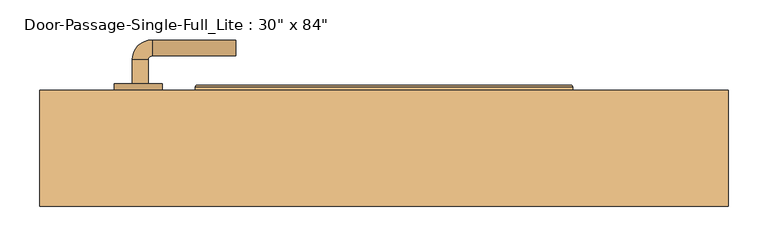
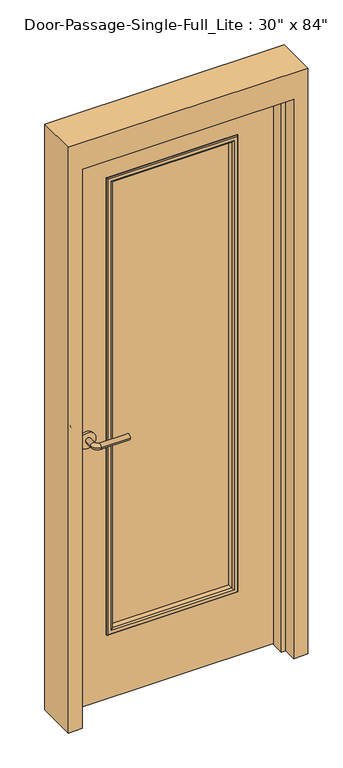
"""IFC4 building model written with IfcOpenShell, lengths in millimetres: door geometry."""

from ifc_helpers import new_model, si_unit, point, frame, frame_2d, origin, place, context, project, spatial, polyline, circle_curve, ellipse_curve, trimmed, segment, composite_curve, outline, extrude, faceted_brep, source, transform, mapped, element, save
from ifc_brep_helpers import plane_surface, cylinder_surface, revolved_surface, advanced_brep


def door_874065d5(model_context):
    return source(origin(), model_context, "Body", "SolidModel", [
        advanced_brep(
        [(-315.990625, 23.75, 1016.0), (-295.990625, 23.75, 1016.0), (-295.990625, -6.25, 1016.0), (-315.990625, -6.25, 1016.0), (-290.990625, -11.25, 1016.0), (-290.990625, -31.25, 1016.0), (-185.990625, -31.25, 1016.0), (-185.990625, -11.25, 1016.0)],
        [
            (0, 1, circle_curve(frame((-305.990625, 23.75, 1016.0), z_axis=(0.0, 1.0, 0.0), x_axis=(1.0, 0.0, 0.0)), 10.0)),
            (1, 0, circle_curve(frame((-305.990625, 23.75, 1016.0), z_axis=(0.0, 1.0, 0.0), x_axis=(1.0, 0.0, 0.0)), 10.0)),
            (1, 2),
            (2, 3, circle_curve(frame((-305.990625, -6.25, 1016.0), z_axis=(0.0, 1.0, 0.0), x_axis=(1.0, 0.0, 0.0)), 10.0)),
            (3, 0),
            (3, 2, circle_curve(frame((-305.990625, -6.25, 1016.0), z_axis=(0.0, 1.0, 0.0), x_axis=(1.0, 0.0, 0.0)), 10.0)),
            (4, 5, circle_curve(frame((-290.990625, -21.25, 1016.0), z_axis=(-1.0, 0.0, 0.0), x_axis=(0.0, 1.0, 0.0)), 10.0)),
            (5, 3, circle_curve(frame((-290.990625, -6.25, 1016.0), z_axis=(0.0, 0.0, -1.0), x_axis=(-1.0, 0.0, 0.0)), 25.0)),
            (2, 4, circle_curve(frame((-290.990625, -6.25, 1016.0), z_axis=(0.0, 0.0, 1.0), x_axis=(-1.0, 0.0, 0.0)), 5.0)),
            (5, 4, circle_curve(frame((-290.990625, -21.25, 1016.0), z_axis=(-1.0, 0.0, 0.0), x_axis=(0.0, 1.0, 0.0)), 10.0)),
            (6, 7, circle_curve(frame((-185.990625, -21.25, 1016.0), z_axis=(1.0, 0.0, 0.0), x_axis=(0.0, 1.0, 0.0)), 10.0)),
            (7, 6, circle_curve(frame((-185.990625, -21.25, 1016.0), z_axis=(1.0, 0.0, 0.0), x_axis=(0.0, 1.0, 0.0)), 10.0)),
            (4, 7),
            (6, 5),
        ],
        [
            plane_surface(frame((-305.990625, 23.75, 1016.0), z_axis=(0.0, 1.0, 0.0), x_axis=(0.0, 0.0, 1.0))),
            cylinder_surface(frame((-305.990625, 23.75, 1016.0), z_axis=(0.0, 1.0, 0.0), x_axis=(1.0, 0.0, 0.0)), 10.0),
            revolved_surface(trimmed(ellipse_curve(frame((-305.990625, -6.25, 1016.0), z_axis=(0.0, -1.0, 0.0), x_axis=(1.0, 0.0, 0.0)), 10.0, 10.0), [point((-315.990625, -6.25, 1016.0))], [point((-295.990625, -6.25, 1016.0))], True, "CARTESIAN"), (-290.990625, -6.25, 1016.0), (0.0, 0.0, -1.0)),
            revolved_surface(trimmed(ellipse_curve(frame((-305.990625, -6.25, 1016.0), z_axis=(0.0, -1.0, 0.0), x_axis=(1.0, 0.0, 0.0)), 10.0, 10.0), [point((-295.990625, -6.25, 1016.0))], [point((-315.990625, -6.25, 1016.0))], True, "CARTESIAN"), (-290.990625, -6.25, 1016.0), (0.0, 0.0, -1.0)),
            plane_surface(frame((-185.990625, -21.25, 1016.0), z_axis=(1.0, 0.0, 0.0), x_axis=(0.0, 0.0, 1.0))),
            cylinder_surface(frame((-290.990625, -21.25, 1016.0), z_axis=(-1.0, 0.0, 0.0), x_axis=(0.0, 1.0, 0.0)), 10.0),
        ],
        [
            (0, [[1, 2]]),
            (1, [[3, 4, 5, -2]]),
            (1, [[-5, 6, -3, -1]]),
            (2, [[7, 8, -4, 9]]),
            (3, [[10, -9, -6, -8]]),
            (4, [[11, 12]]),
            (5, [[13, -11, 14, -7]]),
            (5, [[-14, -12, -13, -10]]),
        ],
    ),
        extrude(outline(composite_curve([segment(trimmed(circle_curve(frame_2d((1016.0, -308.490625)), 30.0), [point((1016.0, -338.490625))], [point((1016.0, -278.490625))], False, "CARTESIAN"), True, "CONTINUOUS"), segment(trimmed(circle_curve(frame_2d((1016.0, -308.490625)), 30.0), [point((1016.0, -278.490625))], [point((1016.0, -338.490625))], False, "CARTESIAN"), True, "CONTINUOUS")], self_intersect=False)), frame((0.0, 23.75, 0.0), z_axis=(0.0, 1.0, 0.0), x_axis=(0.0, 0.0, 1.0)), (0.0, 0.0, 1.0), 8.0),
        advanced_brep(
        [(-315.990625, 84.2, 1016.0), (-295.990625, 84.2, 1016.0), (-315.990625, 114.2, 1016.0), (-295.990625, 114.2, 1016.0), (-290.990625, 119.2, 1016.0), (-290.990625, 139.2, 1016.0), (-185.990625, 139.2, 1016.0), (-185.990625, 119.2, 1016.0)],
        [
            (0, 1, circle_curve(frame((-305.990625, 84.2, 1016.0), z_axis=(0.0, -1.0, 0.0), x_axis=(1.0, 0.0, 0.0)), 10.0)),
            (1, 0, circle_curve(frame((-305.990625, 84.2, 1016.0), z_axis=(0.0, -1.0, 0.0), x_axis=(1.0, 0.0, 0.0)), 10.0)),
            (0, 2),
            (2, 3, circle_curve(frame((-305.990625, 114.2, 1016.0), z_axis=(0.0, -1.0, 0.0), x_axis=(1.0, 0.0, 0.0)), 10.0)),
            (3, 1),
            (3, 2, circle_curve(frame((-305.990625, 114.2, 1016.0), z_axis=(0.0, -1.0, 0.0), x_axis=(1.0, 0.0, 0.0)), 10.0)),
            (4, 3, circle_curve(frame((-290.990625, 114.2, 1016.0), z_axis=(0.0, 0.0, 1.0), x_axis=(-1.0, 0.0, 0.0)), 5.0)),
            (2, 5, circle_curve(frame((-290.990625, 114.2, 1016.0), z_axis=(0.0, 0.0, -1.0), x_axis=(-1.0, 0.0, 0.0)), 25.0)),
            (5, 4, circle_curve(frame((-290.990625, 129.2, 1016.0), z_axis=(-1.0, 0.0, 0.0), x_axis=(0.0, -1.0, 0.0)), 10.0)),
            (4, 5, circle_curve(frame((-290.990625, 129.2, 1016.0), z_axis=(-1.0, 0.0, 0.0), x_axis=(0.0, -1.0, 0.0)), 10.0)),
            (6, 7, circle_curve(frame((-185.990625, 129.2, 1016.0), z_axis=(1.0, 0.0, 0.0), x_axis=(0.0, -1.0, 0.0)), 10.0)),
            (7, 6, circle_curve(frame((-185.990625, 129.2, 1016.0), z_axis=(1.0, 0.0, 0.0), x_axis=(0.0, -1.0, 0.0)), 10.0)),
            (5, 6),
            (7, 4),
        ],
        [
            plane_surface(frame((-305.990625, 84.2, 1016.0), z_axis=(0.0, -1.0, 0.0), x_axis=(0.0, 0.0, 1.0))),
            cylinder_surface(frame((-305.990625, 84.2, 1016.0), z_axis=(0.0, -1.0, 0.0), x_axis=(1.0, 0.0, 0.0)), 10.0),
            revolved_surface(trimmed(ellipse_curve(frame((-305.990625, 114.2, 1016.0), z_axis=(0.0, -1.0, 0.0), x_axis=(1.0, 0.0, 0.0)), 10.0, 10.0), [point((-315.990625, 114.2, 1016.0))], [point((-295.990625, 114.2, 1016.0))], True, "CARTESIAN"), (-290.990625, 114.2, 1016.0), (0.0, 0.0, -1.0)),
            revolved_surface(trimmed(ellipse_curve(frame((-305.990625, 114.2, 1016.0), z_axis=(0.0, -1.0, 0.0), x_axis=(1.0, 0.0, 0.0)), 10.0, 10.0), [point((-295.990625, 114.2, 1016.0))], [point((-315.990625, 114.2, 1016.0))], True, "CARTESIAN"), (-290.990625, 114.2, 1016.0), (0.0, 0.0, -1.0)),
            plane_surface(frame((-185.990625, 129.2, 1016.0), z_axis=(1.0, 0.0, 0.0), x_axis=(0.0, 0.0, 1.0))),
            cylinder_surface(frame((-290.990625, 129.2, 1016.0), z_axis=(-1.0, 0.0, 0.0), x_axis=(0.0, -1.0, 0.0)), 10.0),
        ],
        [
            (0, [[1, 2]]),
            (1, [[-1, 3, 4, 5]]),
            (1, [[-2, -5, 6, -3]]),
            (2, [[7, -4, 8, 9]]),
            (3, [[-8, -6, -7, 10]]),
            (4, [[11, 12]]),
            (5, [[-9, 13, -12, 14]]),
            (5, [[-10, -14, -11, -13]]),
        ],
    ),
        extrude(outline(composite_curve([segment(trimmed(circle_curve(frame_2d((1016.0, -308.490625)), 30.0), [point((1016.0, -338.490625))], [point((1016.0, -278.490625))], False, "CARTESIAN"), True, "CONTINUOUS"), segment(trimmed(circle_curve(frame_2d((1016.0, -308.490625)), 30.0), [point((1016.0, -278.490625))], [point((1016.0, -338.490625))], False, "CARTESIAN"), True, "CONTINUOUS")], self_intersect=False)), frame((0.0, 76.2, 0.0), z_axis=(0.0, 1.0, 0.0), x_axis=(0.0, 0.0, 1.0)), (0.0, 0.0, 1.0), 8.0),
        extrude(outline(polyline([(228.6, 50.8), (-228.6, 50.8), (-228.6, 57.15), (228.6, 57.15), (228.6, 50.8)])), frame((0.0, 0.0, 254.0), z_axis=(0.0, 0.0, 1.0), x_axis=(1.0, 0.0, 0.0)), (0.0, 0.0, 1.0), 1727.2),
        faceted_brep([(381.0, 26.9875, 0.0), (381.0, 76.2, 0.0), (431.8, 76.2, 0.0), (431.8, -69.85, 0.0), (381.0, -69.85, 0.0), (381.0, -20.6375, 0.0), (365.125, -20.6375, 0.0), (365.125, 26.9875, 0.0), (381.0, 26.9875, 2133.6), (381.0, 76.2, 2133.6), (-381.0, 76.2, 2133.6), (-381.0, 76.2, 0.0), (-431.8, 76.2, 0.0), (-431.8, 76.2, 2235.2), (431.8, 76.2, 2235.2), (431.8, -69.85, 2235.2), (-431.8, -69.85, 2235.2), (-431.8, -69.85, 0.0), (-381.0, -69.85, 0.0), (-381.0, -69.85, 2133.6), (381.0, -69.85, 2133.6), (381.0, -20.6375, 2133.6), (-381.0, -20.6375, 2133.6), (-381.0, -20.6375, 0.0), (-365.125, -20.6375, 0.0), (-365.125, -20.6375, 2117.725), (365.125, -20.6375, 2117.725), (365.125, 26.9875, 2117.725), (-365.125, 26.9875, 2117.725), (-365.125, 26.9875, 0.0), (-381.0, 26.9875, 0.0), (-381.0, 26.9875, 2133.6)], [[[0, 1, 2, 3, 4, 5, 6, 7]], [[1, 0, 8, 9]], [[2, 1, 9, 10, 11, 12, 13, 14]], [[3, 2, 14, 15]], [[4, 3, 15, 16, 17, 18, 19, 20]], [[5, 4, 20, 21]], [[6, 5, 21, 22, 23, 24, 25, 26]], [[7, 6, 26, 27]], [[0, 7, 27, 28, 29, 30, 31, 8]], [[9, 8, 31, 10]], [[20, 19, 22, 21]], [[26, 25, 28, 27]], [[12, 11, 30, 29, 24, 23, 18, 17]], [[11, 10, 31, 30]], [[13, 12, 17, 16]], [[19, 18, 23, 22]], [[25, 24, 29, 28]], [[15, 14, 13, 16]]]),
        extrude(outline(polyline([(2133.6, -381.0), (0.0, -381.0), (0.0, 381.0), (2133.6, 381.0), (2133.6, -381.0)]), holes=[polyline([(1981.2, -228.6), (1981.2, 228.6), (254.0, 228.6), (254.0, -228.6), (1981.2, -228.6)])]), frame((0.0, 31.75, 0.0), z_axis=(0.0, 1.0, 0.0), x_axis=(0.0, 0.0, 1.0)), (0.0, 0.0, 1.0), 44.45),
        advanced_brep(
        [(-228.6, 57.15, 1981.2), (-228.6, 76.2, 1981.2), (-228.6, 76.2, 254.0), (-228.6, 57.15, 254.0), (-216.6, 77.2, 1969.2), (-216.6, 57.15, 1969.2), (-216.6, 57.15, 266.0), (-216.6, 77.2, 266.0), (-221.6, 82.2, 1974.2), (-221.6, 82.2, 261.0), (-236.6, 80.2, 1989.2), (-234.6, 82.2, 1987.2), (-234.6, 82.2, 248.0), (-236.6, 80.2, 246.0), (-236.6, 76.2, 1989.2), (-236.6, 76.2, 246.0), (228.6, 76.2, 254.0), (228.6, 57.15, 254.0), (216.6, 57.15, 266.0), (216.6, 77.2, 266.0), (221.6, 82.2, 261.0), (234.6, 82.2, 248.0), (236.6, 80.2, 246.0), (236.6, 76.2, 246.0), (228.6, 76.2, 1981.2), (228.6, 57.15, 1981.2), (216.6, 57.15, 1969.2), (216.6, 77.2, 1969.2), (221.6, 82.2, 1974.2), (234.6, 82.2, 1987.2), (236.6, 80.2, 1989.2), (236.6, 76.2, 1989.2)],
        [
            (0, 1),
            (1, 2),
            (2, 3),
            (3, 0),
            (4, 5),
            (5, 6),
            (6, 7),
            (7, 4),
            (8, 4, ellipse_curve(frame((-221.6, 77.2, 1974.2), z_axis=(-0.7071067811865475, 0.0, -0.7071067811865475), x_axis=(-0.7071067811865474, 0.0, 0.7071067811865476)), 7.0710678, 5.0)),
            (7, 9, ellipse_curve(frame((-221.6, 77.2, 261.0), z_axis=(-0.7071067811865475, 0.0, 0.7071067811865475), x_axis=(0.7071067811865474, 0.0, 0.7071067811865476)), 7.0710678, 5.0)),
            (9, 8),
            (10, 11, ellipse_curve(frame((-234.6, 80.2, 1987.2), z_axis=(-0.7071067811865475, 0.0, -0.7071067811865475), x_axis=(-0.7071067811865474, 0.0, 0.7071067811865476)), 2.8284271, 2.0)),
            (11, 12),
            (12, 13, ellipse_curve(frame((-234.6, 80.2, 248.0), z_axis=(-0.7071067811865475, 0.0, 0.7071067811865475), x_axis=(0.7071067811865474, 0.0, 0.7071067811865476)), 2.8284271, 2.0)),
            (13, 10),
            (14, 10),
            (13, 15),
            (15, 14),
            (2, 16),
            (16, 17),
            (17, 3),
            (6, 18),
            (18, 19),
            (19, 7),
            (19, 20, ellipse_curve(frame((221.6, 77.2, 261.0), z_axis=(-0.7071067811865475, 0.0, -0.7071067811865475), x_axis=(-0.7071067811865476, 0.0, 0.7071067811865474)), 7.0710678, 5.0)),
            (20, 9),
            (12, 21),
            (21, 22, ellipse_curve(frame((234.6, 80.2, 248.0), z_axis=(-0.7071067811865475, 0.0, -0.7071067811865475), x_axis=(-0.7071067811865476, 0.0, 0.7071067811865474)), 2.8284271, 2.0)),
            (22, 13),
            (22, 23),
            (23, 15),
            (16, 24),
            (24, 25),
            (25, 17),
            (18, 26),
            (26, 27),
            (27, 19),
            (27, 28, ellipse_curve(frame((221.6, 77.2, 1974.2), z_axis=(0.7071067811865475, 0.0, -0.7071067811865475), x_axis=(-0.7071067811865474, 0.0, -0.7071067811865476)), 7.0710678, 5.0)),
            (28, 20),
            (21, 29),
            (29, 30, ellipse_curve(frame((234.6, 80.2, 1987.2), z_axis=(0.7071067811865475, 0.0, -0.7071067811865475), x_axis=(-0.7071067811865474, 0.0, -0.7071067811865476)), 2.8284271, 2.0)),
            (30, 22),
            (30, 31),
            (31, 23),
            (31, 14),
            (1, 24),
            (0, 25),
            (5, 26),
            (4, 27),
            (8, 28),
            (11, 29),
            (10, 30),
        ],
        [
            plane_surface(frame((-228.6, 76.2, 1981.2), z_axis=(-1.0, 0.0, 0.0), x_axis=(0.0, 0.0, -1.0))),
            plane_surface(frame((-216.6, 57.15, 1969.2), z_axis=(1.0, 0.0, 0.0), x_axis=(0.0, 0.0, -1.0))),
            cylinder_surface(frame((-221.6, 77.2, 1981.2), z_axis=(0.0, 0.0, 1.0), x_axis=(-1.0, 0.0, 0.0)), 5.0),
            cylinder_surface(frame((-234.6, 80.2, 1981.2), z_axis=(0.0, 0.0, 1.0), x_axis=(-1.0, 0.0, 0.0)), 2.0),
            plane_surface(frame((-236.6, 80.2, 1989.2), z_axis=(-1.0, 0.0, 0.0), x_axis=(0.0, 0.0, -1.0))),
            plane_surface(frame((-228.6, 76.2, 254.0), z_axis=(0.0, 0.0, -1.0), x_axis=(1.0, 0.0, 0.0))),
            plane_surface(frame((-216.6, 57.15, 266.0), z_axis=(0.0, 0.0, 1.0), x_axis=(1.0, 0.0, 0.0))),
            cylinder_surface(frame((-228.6, 77.2, 261.0), z_axis=(-1.0, 0.0, 0.0), x_axis=(0.0, 0.0, -1.0)), 5.0),
            cylinder_surface(frame((-228.6, 80.2, 248.0), z_axis=(-1.0, 0.0, 0.0), x_axis=(0.0, 0.0, -1.0)), 2.0),
            plane_surface(frame((-236.6, 80.2, 246.0), z_axis=(0.0, 0.0, -1.0), x_axis=(1.0, 0.0, 0.0))),
            plane_surface(frame((228.6, 76.2, 254.0), z_axis=(1.0, 0.0, 0.0), x_axis=(0.0, 0.0, 1.0))),
            plane_surface(frame((216.6, 57.15, 266.0), z_axis=(-1.0, 0.0, 0.0), x_axis=(0.0, 0.0, 1.0))),
            cylinder_surface(frame((221.6, 77.2, 254.0), z_axis=(0.0, 0.0, -1.0), x_axis=(1.0, 0.0, 0.0)), 5.0),
            cylinder_surface(frame((234.6, 80.2, 254.0), z_axis=(0.0, 0.0, -1.0), x_axis=(1.0, 0.0, 0.0)), 2.0),
            plane_surface(frame((236.6, 80.2, 246.0), z_axis=(1.0, 0.0, 0.0), x_axis=(0.0, 0.0, 1.0))),
            plane_surface(frame((236.6, 76.2, 1989.2), z_axis=(0.0, -1.0, 0.0), x_axis=(-1.0, 0.0, 0.0))),
            plane_surface(frame((228.6, 76.2, 1981.2), z_axis=(0.0, 0.0, 1.0), x_axis=(-1.0, 0.0, 0.0))),
            plane_surface(frame((228.6, 57.15, 1981.2), z_axis=(0.0, -1.0, 0.0), x_axis=(-1.0, 0.0, 0.0))),
            plane_surface(frame((216.6, 57.15, 1969.2), z_axis=(0.0, 0.0, -1.0), x_axis=(-1.0, 0.0, 0.0))),
            cylinder_surface(frame((228.6, 77.2, 1974.2), z_axis=(1.0, 0.0, 0.0), x_axis=(0.0, 0.0, 1.0)), 5.0),
            plane_surface(frame((221.6, 82.2, 1974.2), z_axis=(0.0, 1.0, 0.0), x_axis=(-1.0, 0.0, 0.0))),
            cylinder_surface(frame((228.6, 80.2, 1987.2), z_axis=(1.0, 0.0, 0.0), x_axis=(0.0, 0.0, 1.0)), 2.0),
            plane_surface(frame((236.6, 80.2, 1989.2), z_axis=(0.0, 0.0, 1.0), x_axis=(-1.0, 0.0, 0.0))),
        ],
        [
            (0, [[1, 2, 3, 4]]),
            (1, [[5, 6, 7, 8]]),
            (2, [[9, -8, 10, 11]]),
            (3, [[12, 13, 14, 15]]),
            (4, [[16, -15, 17, 18]]),
            (5, [[-3, 19, 20, 21]]),
            (6, [[-7, 22, 23, 24]]),
            (7, [[-10, -24, 25, 26]]),
            (8, [[-14, 27, 28, 29]]),
            (9, [[-17, -29, 30, 31]]),
            (10, [[-20, 32, 33, 34]]),
            (11, [[-23, 35, 36, 37]]),
            (12, [[-25, -37, 38, 39]]),
            (13, [[-28, 40, 41, 42]]),
            (14, [[-30, -42, 43, 44]]),
            (15, [[-31, -44, 45, -18], [46, -32, -19, -2]]),
            (16, [[-33, -46, -1, 47]]),
            (17, [[-21, -34, -47, -4], [48, -35, -22, -6]]),
            (18, [[-36, -48, -5, 49]]),
            (19, [[-38, -49, -9, 50]]),
            (20, [[51, -40, -27, -13], [-26, -39, -50, -11]]),
            (21, [[-41, -51, -12, 52]]),
            (22, [[-43, -52, -16, -45]]),
        ],
    ),
        advanced_brep(
        [(-228.6, 50.8, 254.0), (-228.6, 31.75, 254.0), (-228.6, 31.75, 1981.2), (-228.6, 50.8, 1981.2), (-216.6, 30.75, 266.0), (-216.6, 50.8, 266.0), (-216.6, 50.8, 1969.2), (-216.6, 30.75, 1969.2), (-221.6, 25.75, 261.0), (-221.6, 25.75, 1974.2), (-236.6, 27.75, 246.0), (-234.6, 25.75, 248.0), (-234.6, 25.75, 1987.2), (-236.6, 27.75, 1989.2), (-236.6, 31.75, 246.0), (-236.6, 31.75, 1989.2), (228.6, 31.75, 1981.2), (228.6, 50.8, 1981.2), (216.6, 50.8, 1969.2), (216.6, 30.75, 1969.2), (221.6, 25.75, 1974.2), (234.6, 25.75, 1987.2), (236.6, 27.75, 1989.2), (236.6, 31.75, 1989.2), (228.6, 31.75, 254.0), (228.6, 50.8, 254.0), (216.6, 50.8, 266.0), (216.6, 30.75, 266.0), (221.6, 25.75, 261.0), (234.6, 25.75, 248.0), (236.6, 27.75, 246.0), (236.6, 31.75, 246.0)],
        [
            (0, 1),
            (1, 2),
            (2, 3),
            (3, 0),
            (4, 5),
            (5, 6),
            (6, 7),
            (7, 4),
            (8, 4, ellipse_curve(frame((-221.6, 30.75, 261.0), z_axis=(-0.7071067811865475, 0.0, 0.7071067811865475), x_axis=(-0.7071067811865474, 0.0, -0.7071067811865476)), 7.0710678, 5.0)),
            (7, 9, ellipse_curve(frame((-221.6, 30.75, 1974.2), z_axis=(-0.7071067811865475, 0.0, -0.7071067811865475), x_axis=(0.7071067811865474, 0.0, -0.7071067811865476)), 7.0710678, 5.0)),
            (9, 8),
            (10, 11, ellipse_curve(frame((-234.6, 27.75, 248.0), z_axis=(-0.7071067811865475, 0.0, 0.7071067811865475), x_axis=(-0.7071067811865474, 0.0, -0.7071067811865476)), 2.8284271, 2.0)),
            (11, 12),
            (12, 13, ellipse_curve(frame((-234.6, 27.75, 1987.2), z_axis=(-0.7071067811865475, 0.0, -0.7071067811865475), x_axis=(0.7071067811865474, 0.0, -0.7071067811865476)), 2.8284271, 2.0)),
            (13, 10),
            (14, 10),
            (13, 15),
            (15, 14),
            (2, 16),
            (16, 17),
            (17, 3),
            (6, 18),
            (18, 19),
            (19, 7),
            (19, 20, ellipse_curve(frame((221.6, 30.75, 1974.2), z_axis=(-0.7071067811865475, 0.0, 0.7071067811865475), x_axis=(-0.7071067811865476, 0.0, -0.7071067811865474)), 7.0710678, 5.0)),
            (20, 9),
            (12, 21),
            (21, 22, ellipse_curve(frame((234.6, 27.75, 1987.2), z_axis=(-0.7071067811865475, 0.0, 0.7071067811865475), x_axis=(-0.7071067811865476, 0.0, -0.7071067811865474)), 2.8284271, 2.0)),
            (22, 13),
            (22, 23),
            (23, 15),
            (16, 24),
            (24, 25),
            (25, 17),
            (18, 26),
            (26, 27),
            (27, 19),
            (27, 28, ellipse_curve(frame((221.6, 30.75, 261.0), z_axis=(0.7071067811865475, 0.0, 0.7071067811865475), x_axis=(-0.7071067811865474, 0.0, 0.7071067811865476)), 7.0710678, 5.0)),
            (28, 20),
            (21, 29),
            (29, 30, ellipse_curve(frame((234.6, 27.75, 248.0), z_axis=(0.7071067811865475, 0.0, 0.7071067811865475), x_axis=(-0.7071067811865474, 0.0, 0.7071067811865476)), 2.8284271, 2.0)),
            (30, 22),
            (30, 31),
            (31, 23),
            (31, 14),
            (1, 24),
            (0, 25),
            (5, 26),
            (4, 27),
            (8, 28),
            (11, 29),
            (10, 30),
        ],
        [
            plane_surface(frame((-228.6, 31.75, 254.0), z_axis=(-1.0, 0.0, 0.0), x_axis=(0.0, 0.0, 1.0))),
            plane_surface(frame((-216.6, 50.8, 266.0), z_axis=(1.0, 0.0, 0.0), x_axis=(0.0, 0.0, 1.0))),
            cylinder_surface(frame((-221.6, 30.75, 254.0), z_axis=(0.0, 0.0, -1.0), x_axis=(-1.0, 0.0, 0.0)), 5.0),
            cylinder_surface(frame((-234.6, 27.75, 254.0), z_axis=(0.0, 0.0, -1.0), x_axis=(-1.0, 0.0, 0.0)), 2.0),
            plane_surface(frame((-236.6, 27.75, 246.0), z_axis=(-1.0, 0.0, 0.0), x_axis=(0.0, 0.0, 1.0))),
            plane_surface(frame((-228.6, 31.75, 1981.2), z_axis=(0.0, 0.0, 1.0), x_axis=(1.0, 0.0, 0.0))),
            plane_surface(frame((-216.6, 50.8, 1969.2), z_axis=(0.0, 0.0, -1.0), x_axis=(1.0, 0.0, 0.0))),
            cylinder_surface(frame((-228.6, 30.75, 1974.2), z_axis=(-1.0, 0.0, 0.0), x_axis=(0.0, 0.0, 1.0)), 5.0),
            cylinder_surface(frame((-228.6, 27.75, 1987.2), z_axis=(-1.0, 0.0, 0.0), x_axis=(0.0, 0.0, 1.0)), 2.0),
            plane_surface(frame((-236.6, 27.75, 1989.2), z_axis=(0.0, 0.0, 1.0), x_axis=(1.0, 0.0, 0.0))),
            plane_surface(frame((228.6, 31.75, 1981.2), z_axis=(1.0, 0.0, 0.0), x_axis=(0.0, 0.0, -1.0))),
            plane_surface(frame((216.6, 50.8, 1969.2), z_axis=(-1.0, 0.0, 0.0), x_axis=(0.0, 0.0, -1.0))),
            cylinder_surface(frame((221.6, 30.75, 1981.2), z_axis=(0.0, 0.0, 1.0), x_axis=(1.0, 0.0, 0.0)), 5.0),
            cylinder_surface(frame((234.6, 27.75, 1981.2), z_axis=(0.0, 0.0, 1.0), x_axis=(1.0, 0.0, 0.0)), 2.0),
            plane_surface(frame((236.6, 27.75, 1989.2), z_axis=(1.0, 0.0, 0.0), x_axis=(0.0, 0.0, -1.0))),
            plane_surface(frame((236.6, 31.75, 246.0), z_axis=(0.0, 1.0, 0.0), x_axis=(-1.0, 0.0, 0.0))),
            plane_surface(frame((228.6, 31.75, 254.0), z_axis=(0.0, 0.0, -1.0), x_axis=(-1.0, 0.0, 0.0))),
            plane_surface(frame((228.6, 50.8, 254.0), z_axis=(0.0, 1.0, 0.0), x_axis=(-1.0, 0.0, 0.0))),
            plane_surface(frame((216.6, 50.8, 266.0), z_axis=(0.0, 0.0, 1.0), x_axis=(-1.0, 0.0, 0.0))),
            cylinder_surface(frame((228.6, 30.75, 261.0), z_axis=(1.0, 0.0, 0.0), x_axis=(0.0, 0.0, -1.0)), 5.0),
            plane_surface(frame((221.6, 25.75, 261.0), z_axis=(0.0, -1.0, 0.0), x_axis=(-1.0, 0.0, 0.0))),
            cylinder_surface(frame((228.6, 27.75, 248.0), z_axis=(1.0, 0.0, 0.0), x_axis=(0.0, 0.0, -1.0)), 2.0),
            plane_surface(frame((236.6, 27.75, 246.0), z_axis=(0.0, 0.0, -1.0), x_axis=(-1.0, 0.0, 0.0))),
        ],
        [
            (0, [[1, 2, 3, 4]]),
            (1, [[5, 6, 7, 8]]),
            (2, [[9, -8, 10, 11]]),
            (3, [[12, 13, 14, 15]]),
            (4, [[16, -15, 17, 18]]),
            (5, [[-3, 19, 20, 21]]),
            (6, [[-7, 22, 23, 24]]),
            (7, [[-10, -24, 25, 26]]),
            (8, [[-14, 27, 28, 29]]),
            (9, [[-17, -29, 30, 31]]),
            (10, [[-20, 32, 33, 34]]),
            (11, [[-23, 35, 36, 37]]),
            (12, [[-25, -37, 38, 39]]),
            (13, [[-28, 40, 41, 42]]),
            (14, [[-30, -42, 43, 44]]),
            (15, [[-31, -44, 45, -18], [46, -32, -19, -2]]),
            (16, [[-33, -46, -1, 47]]),
            (17, [[-21, -34, -47, -4], [48, -35, -22, -6]]),
            (18, [[-36, -48, -5, 49]]),
            (19, [[-38, -49, -9, 50]]),
            (20, [[51, -40, -27, -13], [-26, -39, -50, -11]]),
            (21, [[-41, -51, -12, 52]]),
            (22, [[-43, -52, -16, -45]]),
        ],
    ),
    ])


if __name__ == "__main__":
    model = new_model("IFC4")
    model_context = context("Model", 3, world=origin())
    ifc_project = project(units=[si_unit("LENGTHUNIT", "METRE", prefix="MILLI")], contexts=[model_context])
    site = spatial("IfcSite", under=ifc_project)
    building = spatial("IfcBuilding", under=site)
    placement = place(None, origin())
    door_shape = door_874065d5(model_context)
    element("IfcDoor", 1, ObjectType="Door-Passage-Single-Full_Lite : 30\" x 84\"", at=placement, inside=building, context=model_context, shape_type="MappedRepresentation", body=[
        mapped(door_shape, transform((0.0, 0.0, 0.0), x_axis=(1.0, 0.0, 0.0), y_axis=(0.0, 1.0, 0.0), z_axis=(0.0, 0.0, 1.0))),
    ])
    save(model, "model.ifc")
